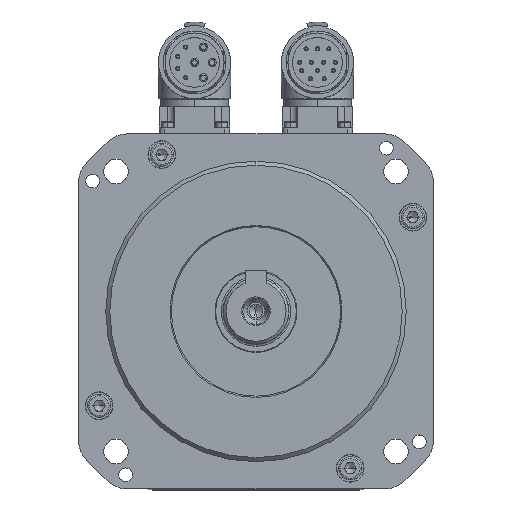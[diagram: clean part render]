
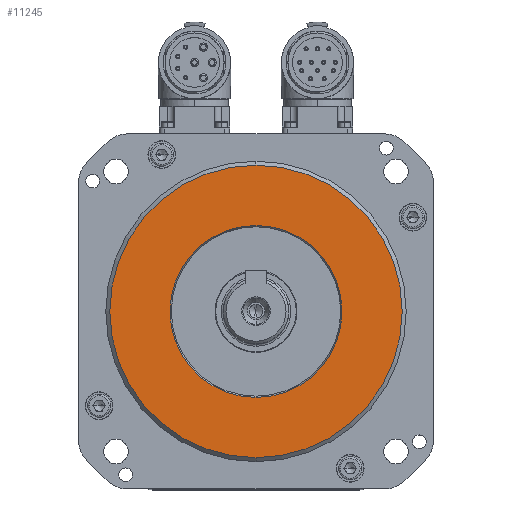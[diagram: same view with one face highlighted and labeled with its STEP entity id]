
A CAD part, top view. The second image highlights one B-rep face of the part: STEP entity #11245.
In plain terms, the highlighted planar face has unit normal (0, 0, 1).
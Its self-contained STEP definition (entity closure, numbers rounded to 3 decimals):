
#2796 = VERTEX_POINT ( 'NONE', #17853 ) ;
#4851 = VERTEX_POINT ( 'NONE', #22542 ) ;
#5515 = VERTEX_POINT ( 'NONE', #19273 ) ;
#7868 = EDGE_CURVE ( 'NONE', #4851, #16641, #13166, .T. ) ;
#10277 = CARTESIAN_POINT ( 'NONE',  ( 0., -53.54, 66.8 ) ) ;
#10869 = CARTESIAN_POINT ( 'NONE',  ( 0., 0., 66.8 ) ) ;
#11245 = ADVANCED_FACE ( 'NONE', ( #30198, #43013 ), #44642, .T. ) ;
#12622 = DIRECTION ( 'NONE',  ( 0., 0., 1. ) ) ;
#13166 = CIRCLE ( 'NONE', #46595, 53.54 ) ;
#15596 = AXIS2_PLACEMENT_3D ( 'NONE', #45892, #12622, #60297 ) ;
#16641 = VERTEX_POINT ( 'NONE', #10277 ) ;
#16960 = EDGE_LOOP ( 'NONE', ( #35730, #26778 ) ) ;
#17853 = CARTESIAN_POINT ( 'NONE',  ( 0., -31.481, 66.8 ) ) ;
#19273 = CARTESIAN_POINT ( 'NONE',  ( 0., 31.481, 66.8 ) ) ;
#19893 = ORIENTED_EDGE ( 'NONE', *, *, #36291, .T. ) ;
#20933 = CARTESIAN_POINT ( 'NONE',  ( 0., 0., 66.8 ) ) ;
#22542 = CARTESIAN_POINT ( 'NONE',  ( 0., 53.54, 66.8 ) ) ;
#24156 = CIRCLE ( 'NONE', #51273, 31.481 ) ;
#24173 = DIRECTION ( 'NONE',  ( 0., 0., 1. ) ) ;
#26778 = ORIENTED_EDGE ( 'NONE', *, *, #58093, .F. ) ;
#28682 = EDGE_LOOP ( 'NONE', ( #42705, #19893 ) ) ;
#28879 = CIRCLE ( 'NONE', #45978, 31.481 ) ;
#29475 = CIRCLE ( 'NONE', #48113, 53.54 ) ;
#30198 = FACE_BOUND ( 'NONE', #16960, .T. ) ;
#33892 = EDGE_CURVE ( 'NONE', #5515, #2796, #28879, .T. ) ;
#34676 = DIRECTION ( 'NONE',  ( 0., -1., 0. ) ) ;
#35254 = DIRECTION ( 'NONE',  ( 0., 0., 1. ) ) ;
#35730 = ORIENTED_EDGE ( 'NONE', *, *, #33892, .F. ) ;
#36291 = EDGE_CURVE ( 'NONE', #16641, #4851, #29475, .T. ) ;
#39122 = DIRECTION ( 'NONE',  ( 0., -1., 0. ) ) ;
#39745 = DIRECTION ( 'NONE',  ( 0., -1., 0. ) ) ;
#42705 = ORIENTED_EDGE ( 'NONE', *, *, #7868, .T. ) ;
#43013 = FACE_OUTER_BOUND ( 'NONE', #28682, .T. ) ;
#44642 = PLANE ( 'NONE',  #15596 ) ;
#45892 = CARTESIAN_POINT ( 'NONE',  ( 0., 0., 66.8 ) ) ;
#45978 = AXIS2_PLACEMENT_3D ( 'NONE', #20933, #35254, #59727 ) ;
#46595 = AXIS2_PLACEMENT_3D ( 'NONE', #10869, #58772, #39122 ) ;
#48113 = AXIS2_PLACEMENT_3D ( 'NONE', #48786, #24173, #34676 ) ;
#48786 = CARTESIAN_POINT ( 'NONE',  ( 0., 0., 66.8 ) ) ;
#49027 = CARTESIAN_POINT ( 'NONE',  ( 0., 0., 66.8 ) ) ;
#51273 = AXIS2_PLACEMENT_3D ( 'NONE', #49027, #53896, #39745 ) ;
#53896 = DIRECTION ( 'NONE',  ( 0., 0., 1. ) ) ;
#58093 = EDGE_CURVE ( 'NONE', #2796, #5515, #24156, .T. ) ;
#58772 = DIRECTION ( 'NONE',  ( 0., 0., 1. ) ) ;
#59727 = DIRECTION ( 'NONE',  ( 0., -1., 0. ) ) ;
#60297 = DIRECTION ( 'NONE',  ( 0., -1., 0. ) ) ;
